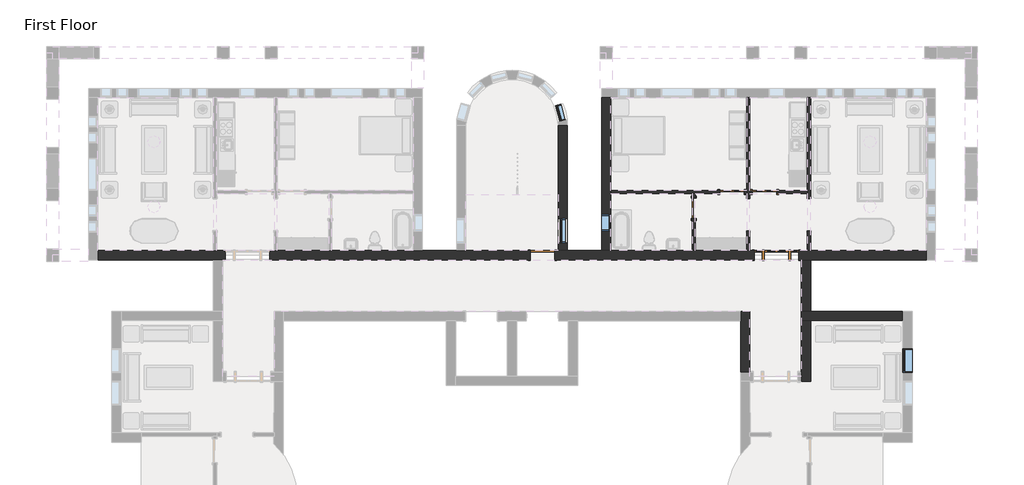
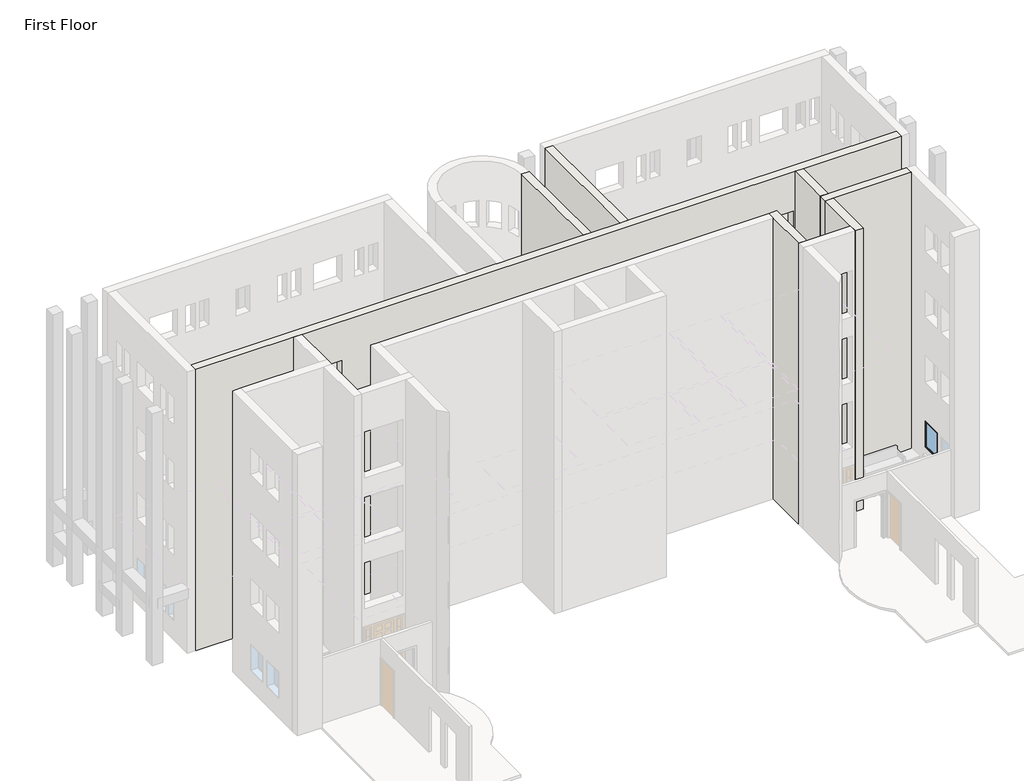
# One storey, part 14 of 21: 12 walls, 5 doors, 4 windows.
"""IFC4 building model written with IfcOpenShell, lengths in millimetres."""

import ifcopenshell
import ifcopenshell.guid

model = None  # the IFC model being written
_history = None  # IfcOwnerHistory: only IFC2X3 demands one
_inside = {}  # id of a spatial element -> (the spatial element, [elements in it])
_under = {}  # id of a project, library or spatial element -> (it, [spatial elements below it])
_declared = {}  # id of a project -> (the project, [libraries it declares])
_typed = {}  # id of a type object -> (the type object, [elements of that type])
_made_of = {}  # id of a material, layer set ... -> (it, [elements and type objects made of it])


def new_model(schema):
    """Start an empty IFC model of exactly this schema.

    Asked for "IFC4X3", IfcOpenShell would pick the latest addendum, in which some entities
    have other attributes; the version numbers below select the first issue.
    IFC2X3 requires an IfcOwnerHistory on every rooted entity: one is made here for all.
    """
    global model, _history
    if schema == "IFC4X3":
        model = ifcopenshell.file(schema_version=(4, 3, 0, 0))
    else:
        model = ifcopenshell.file(schema=schema)
    _inside.clear()
    _under.clear()
    _declared.clear()
    _typed.clear()
    _made_of.clear()
    _history = None
    if model.schema == "IFC2X3":
        org = make("IfcOrganization", Name="unknown")
        user = make(
            "IfcPersonAndOrganization",
            ThePerson=make("IfcPerson", FamilyName="unknown"),
            TheOrganization=org,
        )
        app = make(
            "IfcApplication",
            ApplicationDeveloper=org,
            Version="unknown",
            ApplicationFullName="unknown",
            ApplicationIdentifier="unknown",
        )
        _history = make(
            "IfcOwnerHistory",
            OwningUser=user,
            OwningApplication=app,
            ChangeAction="ADDED",
            CreationDate=0,
        )
    return model


def make(cls, **values):
    """One entity of the class cls with the attributes given. An attribute that is None is left unset."""
    return model.create_entity(
        cls, **{name: value for name, value in values.items() if value is not None}
    )


def rooted(cls, **values):
    """An entity with a GlobalId (a new one), such as an element, a storey or a relation."""
    return make(cls, GlobalId=ifcopenshell.guid.new(), OwnerHistory=_history, **values)


def si_unit(unit_type, name, prefix=None):
    """IfcSIUnit, for example si_unit("LENGTHUNIT", "METRE", prefix="MILLI")."""
    return make("IfcSIUnit", UnitType=unit_type, Prefix=prefix, Name=name)


def assignment(units):
    """IfcUnitAssignment: the units of a project."""
    return None if units is None else make("IfcUnitAssignment", Units=units)


def point(xyz):
    """IfcCartesianPoint."""
    return None if xyz is None else make("IfcCartesianPoint", Coordinates=xyz)


def direction(xyz):
    """IfcDirection."""
    return None if xyz is None else make("IfcDirection", DirectionRatios=xyz)


def frame(location, z_axis=None, x_axis=None):
    """IfcAxis2Placement3D, a coordinate frame: its origin and axes. An axis left out is left unset."""
    return make(
        "IfcAxis2Placement3D",
        Location=point(location),
        Axis=direction(z_axis),
        RefDirection=direction(x_axis),
    )


def frame_2d(location, x_axis=None):
    """IfcAxis2Placement2D, a coordinate frame in the plane: its origin and x axis."""
    return make(
        "IfcAxis2Placement2D", Location=point(location), RefDirection=direction(x_axis)
    )


def origin():
    """The frame at (0, 0, 0) with its axes left unset."""
    return frame((0.0, 0.0, 0.0))


def origin_with_axes():
    """The frame at (0, 0, 0) with the z axis (0, 0, 1) and the x axis (1, 0, 0) written out."""
    return frame((0.0, 0.0, 0.0), z_axis=(0.0, 0.0, 1.0), x_axis=(1.0, 0.0, 0.0))


def place(relative_to, where):
    """IfcLocalPlacement: puts the frame where relative to a parent placement (None: the world)."""
    return make(
        "IfcLocalPlacement", PlacementRelTo=relative_to, RelativePlacement=where
    )


def context(
    kind, dimensions, precision=None, world=None, true_north=None, identifier=None
):
    """IfcGeometricRepresentationContext, for example the 3D "Model" context."""
    return make(
        "IfcGeometricRepresentationContext",
        ContextIdentifier=identifier,
        ContextType=kind,
        CoordinateSpaceDimension=dimensions,
        Precision=precision,
        WorldCoordinateSystem=world,
        TrueNorth=true_north,
    )


def project(units=None, contexts=None):
    """IfcProject with its units and contexts."""
    return rooted(
        "IfcProject",
        Name="project",
        RepresentationContexts=contexts,
        UnitsInContext=assignment(units),
    )


def spatial(cls, under=None, at=None, **own):
    """A site, building, storey or space (cls), placed at a placement, below another one or the project."""
    s = rooted(cls, ObjectPlacement=at, **own)
    if under is not None:
        _under.setdefault(under.id(), (under, []))[1].append(s)
    return s


def polyline(points):
    """IfcPolyline through the points."""
    return make("IfcPolyline", Points=[point(p) for p in points])


def circle_curve(where, radius):
    """IfcCircle in the frame where."""
    return make("IfcCircle", Position=where, Radius=radius)


def trimmed(basis, trim1, trim2, sense, master):
    """IfcTrimmedCurve: the piece of a basis curve between two trims."""
    return make(
        "IfcTrimmedCurve",
        BasisCurve=basis,
        Trim1=trim1,
        Trim2=trim2,
        SenseAgreement=sense,
        MasterRepresentation=master,
    )


def segment(curve, same_sense, transition):
    """IfcCompositeCurveSegment."""
    return make(
        "IfcCompositeCurveSegment",
        Transition=transition,
        SameSense=same_sense,
        ParentCurve=curve,
    )


def composite_curve(segments, self_intersect=None):
    """IfcCompositeCurve: segments joined end to end."""
    return make("IfcCompositeCurve", Segments=segments, SelfIntersect=self_intersect)


def outline(outer, holes=None, kind="AREA"):
    """IfcArbitraryClosedProfileDef: a profile drawn as a closed curve; with holes, ...WithVoids."""
    if holes is None:
        return make("IfcArbitraryClosedProfileDef", ProfileType=kind, OuterCurve=outer)
    return make(
        "IfcArbitraryProfileDefWithVoids",
        ProfileType=kind,
        OuterCurve=outer,
        InnerCurves=holes,
    )


def extrude(swept, where, along, depth):
    """IfcExtrudedAreaSolid: the profile swept, set in the frame where, extruded along a direction by depth."""
    return make(
        "IfcExtrudedAreaSolid",
        SweptArea=swept,
        Position=where,
        ExtrudedDirection=direction(along),
        Depth=depth,
    )


def faces_of(points, faces, orient=None, outer=None):
    """IfcFace entities. A face is a list of loops; a loop is a list of indices into points, from 0.

    orient and outer hold one flag for each loop. By default every Orientation is true, the
    first loop of a face is its IfcFaceOuterBound and the others are IfcFaceBound.
    """
    made = []
    for i, loops in enumerate(faces):
        bounds = []
        for j, loop in enumerate(loops):
            is_outer = j == 0 if outer is None else outer[i][j]
            bounds.append(
                make(
                    "IfcFaceOuterBound" if is_outer else "IfcFaceBound",
                    Bound=make("IfcPolyLoop", Polygon=[points[k] for k in loop]),
                    Orientation=True if orient is None else orient[i][j],
                )
            )
        made.append(make("IfcFace", Bounds=bounds))
    return made


def faceted_brep(points, faces, orient=None, outer=None, voids=None):
    """IfcFacetedBrep: a solid bounded by flat faces; with voids (closed shells), ...WithVoids."""
    shared = [point(p) for p in points]
    hull = make("IfcClosedShell", CfsFaces=faces_of(shared, faces, orient, outer))
    if voids is None:
        return make("IfcFacetedBrep", Outer=hull)
    return make(
        "IfcFacetedBrepWithVoids",
        Outer=hull,
        Voids=[
            make(cls, CfsFaces=faces_of(shared, fs, o, b)) for cls, fs, o, b in voids
        ],
    )


def shape(context_of_items, identifier, shape_type, items):
    """IfcShapeRepresentation: the items that make up one representation, for example the "Body"."""
    return make(
        "IfcShapeRepresentation",
        ContextOfItems=context_of_items,
        RepresentationIdentifier=identifier,
        RepresentationType=shape_type,
        Items=items,
    )


def source(mapping_origin, context_of_items, identifier, shape_type, items):
    """IfcRepresentationMap: a shape defined once, which mapped items show again and again."""
    return make(
        "IfcRepresentationMap",
        MappingOrigin=mapping_origin,
        MappedRepresentation=shape(context_of_items, identifier, shape_type, items),
    )


def transform(
    local_origin,
    x_axis=None,
    y_axis=None,
    z_axis=None,
    scale=None,
    scale2=None,
    scale3=None,
    uniform=True,
):
    """IfcCartesianTransformationOperator3D, or its non-uniform kind. x_axis, y_axis, z_axis: its Axis1, 2, 3."""
    if uniform:
        return make(
            "IfcCartesianTransformationOperator3D",
            Axis1=direction(x_axis),
            Axis2=direction(y_axis),
            LocalOrigin=point(local_origin),
            Scale=scale,
            Axis3=direction(z_axis),
        )
    return make(
        "IfcCartesianTransformationOperator3DnonUniform",
        Axis1=direction(x_axis),
        Axis2=direction(y_axis),
        LocalOrigin=point(local_origin),
        Scale=scale,
        Axis3=direction(z_axis),
        Scale2=scale2,
        Scale3=scale3,
    )


def mapped(mapping_source, mapping_target):
    """IfcMappedItem: shows the shape of a source again, moved by a transform."""
    return make(
        "IfcMappedItem", MappingSource=mapping_source, MappingTarget=mapping_target
    )


def made_of(thing, what):
    """Note that an element or type object is made of a material, layer set ...; save() writes the relation."""
    if what is not None:
        _made_of.setdefault(what.id(), (what, []))[1].append(thing)
    return thing


def element(
    cls,
    number,
    at=None,
    inside=None,
    cuts=None,
    type_object=None,
    material=None,
    context=None,
    identifier="Body",
    shape_type=None,
    held_by="IfcProductDefinitionShape",
    body=None,
    shapes=None,
    **own,
):
    """One element of the class cls, such as IfcWall. Its Tag is "e" and its number.

    at: its placement. inside: the storey or other place that contains it. cuts: it is an
    opening in that element (IfcRelVoidsElement). A single representation is given by context,
    identifier, shape_type and body (its items); several are given by shapes. held_by: the class
    of the entity that holds the representations. save() writes the other relations.
    """
    e = rooted(cls, Tag="e%d" % number, ObjectPlacement=at, **own)
    if body is not None:
        shapes = [shape(context, identifier, shape_type, body)]
    if shapes is not None:
        e.Representation = make(held_by, Representations=shapes)
    if inside is not None:
        _inside.setdefault(inside.id(), (inside, []))[1].append(e)
    if cuts is not None:
        rooted(
            "IfcRelVoidsElement", RelatingBuildingElement=cuts, RelatedOpeningElement=e
        )
    if type_object is not None:
        _typed.setdefault(type_object.id(), (type_object, []))[1].append(e)
    return made_of(e, material)


def aggregate(whole, parts):
    """IfcRelAggregates: a whole, such as a stair, and the parts it consists of."""
    return rooted("IfcRelAggregates", RelatingObject=whole, RelatedObjects=parts)


def save(model, path):
    """Write the relations noted so far, then the file.

    IfcRelAggregates (storeys below a building ...), IfcRelContainedInSpatialStructure (elements
    in a storey), IfcRelDefinesByType, IfcRelAssociatesMaterial and IfcRelDeclares: one each for
    every whole, place, type object, material and project.
    """
    for whole, parts in _under.values():
        aggregate(whole, parts)
    for where, things in _inside.values():
        rooted(
            "IfcRelContainedInSpatialStructure",
            RelatedElements=things,
            RelatingStructure=where,
        )
    for kind, things in _typed.values():
        rooted("IfcRelDefinesByType", RelatedObjects=things, RelatingType=kind)
    for what, things in _made_of.values():
        rooted("IfcRelAssociatesMaterial", RelatedObjects=things, RelatingMaterial=what)
    for by, libraries in _declared.values():
        rooted("IfcRelDeclares", RelatingContext=by, RelatedDefinitions=libraries)
    model.write(path)


def door_829da954(model_context):
    return source(origin(), model_context, "Body", "SweptSolid", [
        extrude(outline(polyline([(0.0, -457.2), (0.0, 457.2), (2133.6, 457.2), (2133.6, -457.2), (0.0, -457.2)]), holes=[polyline([(254.0, -76.2), (254.0, -304.8), (1219.2, -304.8), (1219.2, -76.2), (254.0, -76.2)]), polyline([(254.0, 304.8), (254.0, 76.2), (1219.2, 76.2), (1219.2, 304.8), (254.0, 304.8)]), polyline([(1371.6, 76.2), (1574.8, 76.2), (1574.8, 304.8), (1371.6, 304.8), (1371.6, 76.2)]), polyline([(1371.6, -304.8), (1574.8, -304.8), (1574.8, -76.2), (1371.6, -76.2), (1371.6, -304.8)]), composite_curve([segment(polyline([(1727.2, 304.8), (1727.2, -304.8)]), True, "CONTINUOUS"), segment(trimmed(circle_curve(frame_2d((1727.2, 0.0)), 304.8), [point((1727.2, -304.8))], [point((1727.2, 304.8))], True, "CARTESIAN"), True, "CONTINUOUS")], self_intersect=False)]), frame((0.0, -63.5, 0.0), z_axis=(0.0, 1.0, 0.0), x_axis=(0.0, 0.0, 1.0)), (0.0, 0.0, 1.0), 50.8),
        extrude(outline(polyline([(0.0, 457.2), (0.0, 533.4), (2209.8, 533.4), (2209.8, -533.4), (0.0, -533.4), (0.0, -457.2), (2133.6, -457.2), (2133.6, 457.2), (0.0, 457.2)])), frame((0.0, 63.5, 0.0), z_axis=(0.0, 1.0, 0.0), x_axis=(0.0, 0.0, 1.0)), (0.0, 0.0, 1.0), 25.4),
        extrude(outline(polyline([(2209.8, -533.4), (0.0, -533.4), (0.0, -457.2), (2133.6, -457.2), (2133.6, 457.2), (0.0, 457.2), (0.0, 533.4), (2209.8, 533.4), (2209.8, -533.4)])), frame((0.0, -88.9, 0.0), z_axis=(0.0, 1.0, 0.0), x_axis=(0.0, 0.0, 1.0)), (0.0, 0.0, 1.0), 25.4),
        extrude(outline(composite_curve([segment(polyline([(1727.2, -304.8), (1727.2, 304.8)]), True, "CONTINUOUS"), segment(trimmed(circle_curve(frame_2d((1727.2, 0.0)), 304.8), [point((1727.2, 304.8))], [point((1727.2, -304.8))], False, "CARTESIAN"), True, "CONTINUOUS")], self_intersect=False)), frame((0.0, -46.5666667, 0.0), z_axis=(0.0, 1.0, 0.0), x_axis=(0.0, 0.0, 1.0)), (0.0, 0.0, 1.0), 16.9333333),
        extrude(outline(polyline([(-304.8, -46.5666667), (-304.8, -29.6333333), (-76.2, -29.6333333), (-76.2, -46.5666667), (-304.8, -46.5666667)])), frame((0.0, 0.0, 254.0), z_axis=(0.0, 0.0, 1.0), x_axis=(1.0, 0.0, 0.0)), (0.0, 0.0, 1.0), 965.2),
        extrude(outline(polyline([(76.2, -46.5666667), (76.2, -29.6333333), (304.8, -29.6333333), (304.8, -46.5666667), (76.2, -46.5666667)])), frame((0.0, 0.0, 254.0), z_axis=(0.0, 0.0, 1.0), x_axis=(1.0, 0.0, 0.0)), (0.0, 0.0, 1.0), 965.2),
        extrude(outline(polyline([(76.2, -46.5666667), (76.2, -29.6333333), (304.8, -29.6333333), (304.8, -46.5666667), (76.2, -46.5666667)])), frame((0.0, 0.0, 1371.6), z_axis=(0.0, 0.0, 1.0), x_axis=(1.0, 0.0, 0.0)), (0.0, 0.0, 1.0), 203.2),
        extrude(outline(polyline([(-304.8, -46.5666667), (-304.8, -29.6333333), (-76.2, -29.6333333), (-76.2, -46.5666667), (-304.8, -46.5666667)])), frame((0.0, 0.0, 1371.6), z_axis=(0.0, 0.0, 1.0), x_axis=(1.0, 0.0, 0.0)), (0.0, 0.0, 1.0), 203.2),
    ])


def door_2e3b4da2(model_context):
    return source(origin(), model_context, "Body", "SweptSolid", [
        extrude(outline(polyline([(0.0, -457.2), (0.0, 457.2), (2133.6, 457.2), (2133.6, -457.2), (0.0, -457.2)]), holes=[polyline([(254.0, -76.2), (254.0, -304.8), (1219.2, -304.8), (1219.2, -76.2), (254.0, -76.2)]), polyline([(254.0, 304.8), (254.0, 76.2), (1219.2, 76.2), (1219.2, 304.8), (254.0, 304.8)]), polyline([(1371.6, 76.2), (1574.8, 76.2), (1574.8, 304.8), (1371.6, 304.8), (1371.6, 76.2)]), polyline([(1371.6, -304.8), (1574.8, -304.8), (1574.8, -76.2), (1371.6, -76.2), (1371.6, -304.8)]), composite_curve([segment(polyline([(1727.2, 304.8), (1727.2, -304.8)]), True, "CONTINUOUS"), segment(trimmed(circle_curve(frame_2d((1727.2, 0.0)), 304.8), [point((1727.2, -304.8))], [point((1727.2, 304.8))], True, "CARTESIAN"), True, "CONTINUOUS")], self_intersect=False)]), frame((0.0, 12.7, 0.0), z_axis=(0.0, 1.0, 0.0), x_axis=(0.0, 0.0, 1.0)), (0.0, 0.0, 1.0), 50.8),
        extrude(outline(polyline([(0.0, 457.2), (0.0, 533.4), (2209.8, 533.4), (2209.8, -533.4), (0.0, -533.4), (0.0, -457.2), (2133.6, -457.2), (2133.6, 457.2), (0.0, 457.2)])), frame((0.0, -88.9, 0.0), z_axis=(0.0, 1.0, 0.0), x_axis=(0.0, 0.0, 1.0)), (0.0, 0.0, 1.0), 25.4),
        extrude(outline(polyline([(2209.8, -533.4), (0.0, -533.4), (0.0, -457.2), (2133.6, -457.2), (2133.6, 457.2), (0.0, 457.2), (0.0, 533.4), (2209.8, 533.4), (2209.8, -533.4)])), frame((0.0, 63.5, 0.0), z_axis=(0.0, 1.0, 0.0), x_axis=(0.0, 0.0, 1.0)), (0.0, 0.0, 1.0), 25.4),
        extrude(outline(composite_curve([segment(polyline([(1727.2, -304.8), (1727.2, 304.8)]), True, "CONTINUOUS"), segment(trimmed(circle_curve(frame_2d((1727.2, 0.0)), 304.8), [point((1727.2, 304.8))], [point((1727.2, -304.8))], False, "CARTESIAN"), True, "CONTINUOUS")], self_intersect=False)), frame((0.0, 29.6333333, 0.0), z_axis=(0.0, 1.0, 0.0), x_axis=(0.0, 0.0, 1.0)), (0.0, 0.0, 1.0), 16.9333333),
        extrude(outline(polyline([(-304.8, 46.5666667), (-76.2, 46.5666667), (-76.2, 29.6333333), (-304.8, 29.6333333), (-304.8, 46.5666667)])), frame((0.0, 0.0, 254.0), z_axis=(0.0, 0.0, 1.0), x_axis=(1.0, 0.0, 0.0)), (0.0, 0.0, 1.0), 965.2),
        extrude(outline(polyline([(76.2, 46.5666667), (304.8, 46.5666667), (304.8, 29.6333333), (76.2, 29.6333333), (76.2, 46.5666667)])), frame((0.0, 0.0, 254.0), z_axis=(0.0, 0.0, 1.0), x_axis=(1.0, 0.0, 0.0)), (0.0, 0.0, 1.0), 965.2),
        extrude(outline(polyline([(76.2, 46.5666667), (304.8, 46.5666667), (304.8, 29.6333333), (76.2, 29.6333333), (76.2, 46.5666667)])), frame((0.0, 0.0, 1371.6), z_axis=(0.0, 0.0, 1.0), x_axis=(1.0, 0.0, 0.0)), (0.0, 0.0, 1.0), 203.2),
        extrude(outline(polyline([(-304.8, 46.5666667), (-76.2, 46.5666667), (-76.2, 29.6333333), (-304.8, 29.6333333), (-304.8, 46.5666667)])), frame((0.0, 0.0, 1371.6), z_axis=(0.0, 0.0, 1.0), x_axis=(1.0, 0.0, 0.0)), (0.0, 0.0, 1.0), 203.2),
    ])


def door_4d6c7550(model_context):
    return source(origin(), model_context, "Body", "SweptSolid", [
        extrude(outline(polyline([(2209.8, -457.2), (0.0, -457.2), (0.0, -381.0), (2133.6, -381.0), (2133.6, 381.0), (0.0, 381.0), (0.0, 457.2), (2209.8, 457.2), (2209.8, -457.2)])), frame((0.0, 63.5, 0.0), z_axis=(0.0, 1.0, 0.0), x_axis=(0.0, 0.0, 1.0)), (0.0, 0.0, 1.0), 25.4),
        extrude(outline(polyline([(2209.8, 457.2), (2209.8, -457.2), (0.0, -457.2), (0.0, -381.0), (2133.6, -381.0), (2133.6, 381.0), (0.0, 381.0), (0.0, 457.2), (2209.8, 457.2)])), frame((0.0, -88.9, 0.0), z_axis=(0.0, 1.0, 0.0), x_axis=(0.0, 0.0, 1.0)), (0.0, 0.0, 1.0), 25.4),
        extrude(outline(polyline([(381.0, 12.7), (-381.0, 12.7), (-381.0, 63.5), (381.0, 63.5), (381.0, 12.7)])), origin_with_axes(), (0.0, 0.0, 1.0), 2133.6),
    ])


def door_632be17d(model_context):
    return source(origin(), model_context, "Body", "SweptSolid", [
        extrude(outline(polyline([(2209.8, -533.4), (0.0, -533.4), (0.0, -457.2), (2133.6, -457.2), (2133.6, 457.2), (0.0, 457.2), (0.0, 533.4), (2209.8, 533.4), (2209.8, -533.4)])), frame((0.0, 176.2125, 0.0), z_axis=(0.0, 1.0, 0.0), x_axis=(0.0, 0.0, 1.0)), (0.0, 0.0, 1.0), 25.4),
        extrude(outline(polyline([(2209.8, 533.4), (2209.8, -533.4), (0.0, -533.4), (0.0, -457.2), (2133.6, -457.2), (2133.6, 457.2), (0.0, 457.2), (0.0, 533.4), (2209.8, 533.4)])), frame((0.0, -201.6125, 0.0), z_axis=(0.0, 1.0, 0.0), x_axis=(0.0, 0.0, 1.0)), (0.0, 0.0, 1.0), 25.4),
        extrude(outline(polyline([(457.2, 125.4125), (-457.2, 125.4125), (-457.2, 176.2125), (457.2, 176.2125), (457.2, 125.4125)])), origin_with_axes(), (0.0, 0.0, 1.0), 2133.6),
    ])


def door_dba5aa2e(model_context):
    return source(origin(), model_context, "Body", "SweptSolid", [
        extrude(outline(polyline([(762.0, -134.9375), (762.0, -166.6875), (609.6, -166.6875), (609.6, -134.9375), (762.0, -134.9375)])), frame((0.0, 0.0, 600.075), z_axis=(0.0, 0.0, 1.0), x_axis=(1.0, 0.0, 0.0)), (0.0, 0.0, 1.0), 19.05),
        extrude(outline(polyline([(762.0, -134.9375), (762.0, -166.6875), (609.6, -166.6875), (609.6, -134.9375), (762.0, -134.9375)])), frame((0.0, 0.0, 955.675), z_axis=(0.0, 0.0, 1.0), x_axis=(1.0, 0.0, 0.0)), (0.0, 0.0, 1.0), 19.05),
        extrude(outline(polyline([(762.0, -134.9375), (762.0, -166.6875), (609.6, -166.6875), (609.6, -134.9375), (762.0, -134.9375)])), frame((0.0, 0.0, 1311.275), z_axis=(0.0, 0.0, 1.0), x_axis=(1.0, 0.0, 0.0)), (0.0, 0.0, 1.0), 19.05),
        extrude(outline(polyline([(762.0, -134.9375), (762.0, -166.6875), (609.6, -166.6875), (609.6, -134.9375), (762.0, -134.9375)])), frame((0.0, 0.0, 1666.875), z_axis=(0.0, 0.0, 1.0), x_axis=(1.0, 0.0, 0.0)), (0.0, 0.0, 1.0), 19.05),
        extrude(outline(polyline([(-609.6, -134.9375), (-609.6, -166.6875), (-762.0, -166.6875), (-762.0, -134.9375), (-609.6, -134.9375)])), frame((0.0, 0.0, 1666.875), z_axis=(0.0, 0.0, 1.0), x_axis=(1.0, 0.0, 0.0)), (0.0, 0.0, 1.0), 19.05),
        extrude(outline(polyline([(-609.6, -134.9375), (-609.6, -166.6875), (-762.0, -166.6875), (-762.0, -134.9375), (-609.6, -134.9375)])), frame((0.0, 0.0, 1311.275), z_axis=(0.0, 0.0, 1.0), x_axis=(1.0, 0.0, 0.0)), (0.0, 0.0, 1.0), 19.05),
        extrude(outline(polyline([(-609.6, -134.9375), (-609.6, -166.6875), (-762.0, -166.6875), (-762.0, -134.9375), (-609.6, -134.9375)])), frame((0.0, 0.0, 955.675), z_axis=(0.0, 0.0, 1.0), x_axis=(1.0, 0.0, 0.0)), (0.0, 0.0, 1.0), 19.05),
        extrude(outline(polyline([(-609.6, -134.9375), (-609.6, -166.6875), (-762.0, -166.6875), (-762.0, -134.9375), (-609.6, -134.9375)])), frame((0.0, 0.0, 600.075), z_axis=(0.0, 0.0, 1.0), x_axis=(1.0, 0.0, 0.0)), (0.0, 0.0, 1.0), 19.05),
        extrude(outline(polyline([(762.0, -141.2875), (762.0, -160.3375), (609.6, -160.3375), (609.6, -141.2875), (762.0, -141.2875)])), frame((0.0, 0.0, 254.0), z_axis=(0.0, 0.0, 1.0), x_axis=(1.0, 0.0, 0.0)), (0.0, 0.0, 1.0), 1778.0),
        extrude(outline(polyline([(-609.6, -141.2875), (-609.6, -160.3375), (-762.0, -160.3375), (-762.0, -141.2875), (-609.6, -141.2875)])), frame((0.0, 0.0, 254.0), z_axis=(0.0, 0.0, 1.0), x_axis=(1.0, 0.0, 0.0)), (0.0, 0.0, 1.0), 1778.0),
        extrude(outline(polyline([(-457.2, 176.2125), (-457.2, -176.2125), (-533.4, -176.2125), (-533.4, 176.2125), (-457.2, 176.2125)])), origin_with_axes(), (0.0, 0.0, 1.0), 2133.6),
        extrude(outline(polyline([(533.4, 176.2125), (533.4, -176.2125), (457.2, -176.2125), (457.2, 176.2125), (533.4, 176.2125)])), origin_with_axes(), (0.0, 0.0, 1.0), 2133.6),
        extrude(outline(polyline([(2133.6, -533.4), (2133.6, -838.2), (0.0, -838.2), (0.0, -533.4), (2133.6, -533.4)]), holes=[polyline([(2032.0, -609.6), (254.0, -609.6), (254.0, -762.0), (2032.0, -762.0), (2032.0, -609.6)])]), frame((0.0, -176.2125, 0.0), z_axis=(0.0, 1.0, 0.0), x_axis=(0.0, 0.0, 1.0)), (0.0, 0.0, 1.0), 50.8),
        extrude(outline(polyline([(0.0, 533.4), (0.0, 838.2), (2133.6, 838.2), (2133.6, 533.4), (0.0, 533.4)]), holes=[polyline([(2032.0, 762.0), (254.0, 762.0), (254.0, 609.6), (2032.0, 609.6), (2032.0, 762.0)])]), frame((0.0, -176.2125, 0.0), z_axis=(0.0, 1.0, 0.0), x_axis=(0.0, 0.0, 1.0)), (0.0, 0.0, 1.0), 50.8),
        extrude(outline(polyline([(0.0, -914.4), (0.0, -838.2), (2133.6, -838.2), (2133.6, -533.4), (0.0, -533.4), (0.0, -457.2), (2133.6, -457.2), (2133.6, 457.2), (0.0, 457.2), (0.0, 533.4), (2133.6, 533.4), (2133.6, 838.2), (0.0, 838.2), (0.0, 914.4), (2209.8, 914.4), (2209.8, -914.4), (0.0, -914.4)])), frame((0.0, 176.2125, 0.0), z_axis=(0.0, 1.0, 0.0), x_axis=(0.0, 0.0, 1.0)), (0.0, 0.0, 1.0), 25.4),
        extrude(outline(polyline([(0.0, 914.4), (2209.8, 914.4), (2209.8, -914.4), (0.0, -914.4), (0.0, -838.2), (2133.6, -838.2), (2133.6, -533.4), (0.0, -533.4), (0.0, -457.2), (2133.6, -457.2), (2133.6, 457.2), (0.0, 457.2), (0.0, 533.4), (2133.6, 533.4), (2133.6, 838.2), (0.0, 838.2), (0.0, 914.4)])), frame((0.0, -201.6125, 0.0), z_axis=(0.0, 1.0, 0.0), x_axis=(0.0, 0.0, 1.0)), (0.0, 0.0, 1.0), 25.4),
        extrude(outline(polyline([(-63.5, -138.1125), (-63.5, -163.5125), (-330.2, -163.5125), (-330.2, -138.1125), (-63.5, -138.1125)])), frame((0.0, 0.0, 1778.0), z_axis=(0.0, 0.0, 1.0), x_axis=(1.0, 0.0, 0.0)), (0.0, 0.0, 1.0), 254.0),
        extrude(outline(polyline([(330.2, -138.1125), (330.2, -163.5125), (63.5, -163.5125), (63.5, -138.1125), (330.2, -138.1125)])), frame((0.0, 0.0, 1778.0), z_axis=(0.0, 0.0, 1.0), x_axis=(1.0, 0.0, 0.0)), (0.0, 0.0, 1.0), 254.0),
        extrude(outline(polyline([(-63.5, -138.1125), (-63.5, -163.5125), (-330.2, -163.5125), (-330.2, -138.1125), (-63.5, -138.1125)])), frame((0.0, 0.0, 1041.4), z_axis=(0.0, 0.0, 1.0), x_axis=(1.0, 0.0, 0.0)), (0.0, 0.0, 1.0), 635.0),
        extrude(outline(polyline([(330.2, -138.1125), (330.2, -163.5125), (63.5, -163.5125), (63.5, -138.1125), (330.2, -138.1125)])), frame((0.0, 0.0, 1041.4), z_axis=(0.0, 0.0, 1.0), x_axis=(1.0, 0.0, 0.0)), (0.0, 0.0, 1.0), 635.0),
        extrude(outline(polyline([(-63.5, -138.1125), (-63.5, -163.5125), (-330.2, -163.5125), (-330.2, -138.1125), (-63.5, -138.1125)])), frame((0.0, 0.0, 254.0), z_axis=(0.0, 0.0, 1.0), x_axis=(1.0, 0.0, 0.0)), (0.0, 0.0, 1.0), 609.6),
        extrude(outline(polyline([(330.2, -138.1125), (330.2, -163.5125), (63.5, -163.5125), (63.5, -138.1125), (330.2, -138.1125)])), frame((0.0, 0.0, 254.0), z_axis=(0.0, 0.0, 1.0), x_axis=(1.0, 0.0, 0.0)), (0.0, 0.0, 1.0), 609.6),
        extrude(outline(polyline([(2133.6, 457.2), (2133.6, -457.2), (0.0, -457.2), (0.0, 457.2), (2133.6, 457.2)]), holes=[polyline([(2032.0, -63.5), (1778.0, -63.5), (1778.0, -330.2), (2032.0, -330.2), (2032.0, -63.5)]), polyline([(2032.0, 330.2), (1778.0, 330.2), (1778.0, 63.5), (2032.0, 63.5), (2032.0, 330.2)]), polyline([(1676.4, -63.5), (1041.4, -63.5), (1041.4, -330.2), (1676.4, -330.2), (1676.4, -63.5)]), polyline([(1676.4, 330.2), (1041.4, 330.2), (1041.4, 63.5), (1676.4, 63.5), (1676.4, 330.2)]), polyline([(863.6, -63.5), (254.0, -63.5), (254.0, -330.2), (863.6, -330.2), (863.6, -63.5)]), polyline([(863.6, 330.2), (254.0, 330.2), (254.0, 63.5), (863.6, 63.5), (863.6, 330.2)])]), frame((0.0, -176.2125, 0.0), z_axis=(0.0, 1.0, 0.0), x_axis=(0.0, 0.0, 1.0)), (0.0, 0.0, 1.0), 50.8),
    ])


def window_60baf983(model_context):
    return source(origin(), model_context, "Body", "SweptSolid", [
        extrude(outline(polyline([(203.2, 128.5875), (-279.4, 128.5875), (-279.4, 141.2875), (203.2, 141.2875), (203.2, 128.5875)])), frame((0.0, 0.0, 977.9), z_axis=(0.0, 0.0, 1.0), x_axis=(1.0, 0.0, 0.0)), (0.0, 0.0, 1.0), 1092.2),
        extrude(outline(polyline([(2114.55, -323.85), (933.45, -323.85), (933.45, 247.65), (2114.55, 247.65), (2114.55, -323.85)]), holes=[polyline([(2070.1, -279.4), (2070.1, 203.2), (977.9, 203.2), (977.9, -279.4), (2070.1, -279.4)])]), frame((0.0, 112.7125, 0.0), z_axis=(0.0, 1.0, 0.0), x_axis=(0.0, 0.0, 1.0)), (0.0, 0.0, 1.0), 44.45),
        extrude(outline(polyline([(2133.6, -342.9), (914.4, -342.9), (914.4, 266.7), (2133.6, 266.7), (2133.6, -342.9)]), holes=[polyline([(2101.85, -311.15), (2101.85, 234.95), (946.15, 234.95), (946.15, -311.15), (2101.85, -311.15)])]), frame((0.0, -176.2125, 0.0), z_axis=(0.0, 1.0, 0.0), x_axis=(0.0, 0.0, 1.0)), (0.0, 0.0, 1.0), 288.925),
        extrude(outline(polyline([(2133.6, 266.7), (2133.6, -342.9), (914.4, -342.9), (914.4, 266.7), (2133.6, 266.7)]), holes=[polyline([(2114.55, 247.65), (933.45, 247.65), (933.45, -323.85), (2114.55, -323.85), (2114.55, 247.65)])]), frame((0.0, 112.7125, 0.0), z_axis=(0.0, 1.0, 0.0), x_axis=(0.0, 0.0, 1.0)), (0.0, 0.0, 1.0), 63.5),
    ])


def window_80bd9af0(model_context):
    return source(origin(), model_context, "Body", "SweptSolid", [
        extrude(outline(polyline([(203.2, 53.975), (-279.4, 53.975), (-279.4, 66.675), (203.2, 66.675), (203.2, 53.975)])), frame((0.0, 0.0, 977.9), z_axis=(0.0, 0.0, 1.0), x_axis=(1.0, 0.0, 0.0)), (0.0, 0.0, 1.0), 1092.2),
        extrude(outline(polyline([(2114.55, -323.85), (933.45, -323.85), (933.45, 247.65), (2114.55, 247.65), (2114.55, -323.85)]), holes=[polyline([(2070.1, -279.4), (2070.1, 203.2), (977.9, 203.2), (977.9, -279.4), (2070.1, -279.4)])]), frame((0.0, 38.1, 0.0), z_axis=(0.0, 1.0, 0.0), x_axis=(0.0, 0.0, 1.0)), (0.0, 0.0, 1.0), 44.45),
        extrude(outline(polyline([(2133.6, -342.9), (914.4, -342.9), (914.4, 266.7), (2133.6, 266.7), (2133.6, -342.9)]), holes=[polyline([(2101.85, -311.15), (2101.85, 234.95), (946.15, 234.95), (946.15, -311.15), (2101.85, -311.15)])]), frame((0.0, -101.6, 0.0), z_axis=(0.0, 1.0, 0.0), x_axis=(0.0, 0.0, 1.0)), (0.0, 0.0, 1.0), 139.7),
        extrude(outline(polyline([(2133.6, 266.7), (2133.6, -342.9), (914.4, -342.9), (914.4, 266.7), (2133.6, 266.7)]), holes=[polyline([(2114.55, 247.65), (933.45, 247.65), (933.45, -323.85), (2114.55, -323.85), (2114.55, 247.65)])]), frame((0.0, 38.1, 0.0), z_axis=(0.0, 1.0, 0.0), x_axis=(0.0, 0.0, 1.0)), (0.0, 0.0, 1.0), 63.5),
    ])


def window_0e2fc6ce(model_context):
    return source(origin(), model_context, "Body", "SweptSolid", [
        extrude(outline(polyline([(355.6, -128.5875), (355.6, -141.2875), (-431.8, -141.2875), (-431.8, -128.5875), (355.6, -128.5875)])), frame((0.0, 0.0, 977.9), z_axis=(0.0, 0.0, 1.0), x_axis=(1.0, 0.0, 0.0)), (0.0, 0.0, 1.0), 1092.2),
        extrude(outline(polyline([(2114.55, -476.25), (933.45, -476.25), (933.45, 400.05), (2114.55, 400.05), (2114.55, -476.25)]), holes=[polyline([(2070.1, -431.8), (2070.1, 355.6), (977.9, 355.6), (977.9, -431.8), (2070.1, -431.8)])]), frame((0.0, -157.1625, 0.0), z_axis=(0.0, 1.0, 0.0), x_axis=(0.0, 0.0, 1.0)), (0.0, 0.0, 1.0), 44.45),
        extrude(outline(polyline([(2133.6, -495.3), (914.4, -495.3), (914.4, 419.1), (2133.6, 419.1), (2133.6, -495.3)]), holes=[polyline([(2101.85, -463.55), (2101.85, 387.35), (946.15, 387.35), (946.15, -463.55), (2101.85, -463.55)])]), frame((0.0, -112.7125, 0.0), z_axis=(0.0, 1.0, 0.0), x_axis=(0.0, 0.0, 1.0)), (0.0, 0.0, 1.0), 288.925),
        extrude(outline(polyline([(2133.6, 419.1), (2133.6, -495.3), (914.4, -495.3), (914.4, 419.1), (2133.6, 419.1)]), holes=[polyline([(2114.55, 400.05), (933.45, 400.05), (933.45, -476.25), (2114.55, -476.25), (2114.55, 400.05)])]), frame((0.0, -176.2125, 0.0), z_axis=(0.0, 1.0, 0.0), x_axis=(0.0, 0.0, 1.0)), (0.0, 0.0, 1.0), 63.5),
    ])


def window_e2841890(model_context):
    return source(origin(), model_context, "Body", "SweptSolid", [
        extrude(outline(polyline([(355.6, 53.975), (-431.8, 53.975), (-431.8, 66.675), (355.6, 66.675), (355.6, 53.975)])), frame((0.0, 0.0, 977.9), z_axis=(0.0, 0.0, 1.0), x_axis=(1.0, 0.0, 0.0)), (0.0, 0.0, 1.0), 1092.2),
        extrude(outline(polyline([(2114.55, -476.25), (933.45, -476.25), (933.45, 400.05), (2114.55, 400.05), (2114.55, -476.25)]), holes=[polyline([(2070.1, -431.8), (2070.1, 355.6), (977.9, 355.6), (977.9, -431.8), (2070.1, -431.8)])]), frame((0.0, 38.1, 0.0), z_axis=(0.0, 1.0, 0.0), x_axis=(0.0, 0.0, 1.0)), (0.0, 0.0, 1.0), 44.45),
        extrude(outline(polyline([(2133.6, -495.3), (914.4, -495.3), (914.4, 419.1), (2133.6, 419.1), (2133.6, -495.3)]), holes=[polyline([(2101.85, -463.55), (2101.85, 387.35), (946.15, 387.35), (946.15, -463.55), (2101.85, -463.55)])]), frame((0.0, -101.6, 0.0), z_axis=(0.0, 1.0, 0.0), x_axis=(0.0, 0.0, 1.0)), (0.0, 0.0, 1.0), 139.7),
        extrude(outline(polyline([(2133.6, 419.1), (2133.6, -495.3), (914.4, -495.3), (914.4, 419.1), (2133.6, 419.1)]), holes=[polyline([(2114.55, 400.05), (933.45, 400.05), (933.45, -476.25), (2114.55, -476.25), (2114.55, 400.05)])]), frame((0.0, 38.1, 0.0), z_axis=(0.0, 1.0, 0.0), x_axis=(0.0, 0.0, 1.0)), (0.0, 0.0, 1.0), 63.5),
    ])


model = new_model("IFC4")

# Units and contexts
model_context = context("Model", 3, world=origin())
ifc_project = project(units=[si_unit("LENGTHUNIT", "METRE", prefix="MILLI")], contexts=[model_context])

# Site, building, storey
site = spatial("IfcSite", under=ifc_project)
building = spatial("IfcBuilding", under=site)
storey = spatial("IfcBuildingStorey", under=building, Name="First Floor", Elevation=0.0)

# Doors
placement = place(None, origin())
door_shape = door_829da954(model_context)
element("IfcDoor", 1, ObjectType="Single-Decorative 2 : 36\" x 84\"", at=placement, inside=storey, context=model_context, shape_type="MappedRepresentation", body=[
    mapped(door_shape, transform((-5449.8589563, 6723.5441867, 0.0), x_axis=(-1.0, 0.0, 0.0), y_axis=(0.0, -1.0, 0.0), z_axis=(0.0, 0.0, 1.0))),
])
door_2_shape = door_2e3b4da2(model_context)
element("IfcDoor", 2, ObjectType="Single-Decorative 2 : 36\" x 84\"", at=placement, inside=storey, context=model_context, shape_type="MappedRepresentation", body=[
    mapped(door_2_shape, transform((-6669.0589563, 6723.5441867, 0.0), x_axis=(1.0, 0.0, 0.0), y_axis=(0.0, 1.0, 0.0), z_axis=(0.0, 0.0, 1.0))),
])
door_3_shape = door_4d6c7550(model_context)
element("IfcDoor", 3, ObjectType="Single-Flush : 30\" x 84\"", at=placement, inside=storey, context=model_context, shape_type="MappedRepresentation", body=[
    mapped(door_3_shape, transform((-8105.7464563, 6113.9441867, 0.0), x_axis=(0.0, 1.0, 0.0), y_axis=(-1.0, 0.0, 0.0), z_axis=(0.0, 0.0, 1.0))),
])
door_4_shape = door_632be17d(model_context)
element("IfcDoor", 4, ObjectType="Single-Flush : 36\" x 84\"", at=placement, inside=storey, context=model_context, shape_type="MappedRepresentation", body=[
    mapped(door_4_shape, transform((-13792.1714563, 4350.2316867, 0.0), x_axis=(1.0, 0.0, 0.0), y_axis=(0.0, 1.0, 0.0), z_axis=(0.0, 0.0, 1.0))),
])
door_5_shape = door_dba5aa2e(model_context)
element("IfcDoor", 5, ObjectType="Single-Raised Panel with Sidelights : 36\" x 84\"", at=placement, inside=storey, context=model_context, shape_type="MappedRepresentation", body=[
    mapped(door_5_shape, transform((-4992.6589563, 4350.2316867, 0.0), x_axis=(-1.0, 0.0, 0.0), y_axis=(0.0, -1.0, 0.0), z_axis=(0.0, 0.0, 1.0))),
])

# Walls
element("IfcWall", 6, ObjectType="Exterior - Brick on Mtl. Stud", at=placement, inside=storey, context=model_context, shape_type="Brep", body=[
    faceted_brep([(-5830.8589563, 4174.0191867, 0.0), (-13334.9714563, 4174.0191867, 0.0), (-13334.9714563, 4526.4441867, 0.0), (-13206.3839563, 4526.4441867, 0.0), (-12853.9589563, 4526.4441867, 0.0), (-11569.6714563, 4526.4441867, 0.0), (-11217.2464563, 4526.4441867, 0.0), (-8169.2464563, 4526.4441867, 0.0), (-8042.2464563, 4526.4441867, 0.0), (-6122.9589563, 4526.4441867, 0.0), (-5995.9589563, 4526.4441867, 0.0), (-5830.8589563, 4526.4441867, 0.0), (-4154.4589563, 4526.4441867, 0.0), (-3836.9589563, 4526.4441867, 0.0), (-3709.9589563, 4526.4441867, 0.0), (622.3285437, 4526.4441867, 0.0), (622.3285437, 4174.0191867, 0.0), (-3709.9589563, 4174.0191867, 0.0), (-4062.3839563, 4174.0191867, 0.0), (-4154.4589563, 4174.0191867, 0.0), (-14249.3714563, 4174.0191867, 0.0), (-24039.4839563, 4174.0191867, 0.0), (-24039.4839563, 4526.4441867, 0.0), (-23874.3839563, 4526.4441867, 0.0), (-23747.3839563, 4526.4441867, 0.0), (-21828.0964563, 4526.4441867, 0.0), (-21701.0964563, 4526.4441867, 0.0), (-18653.0964563, 4526.4441867, 0.0), (-18300.6714563, 4526.4441867, 0.0), (-17016.3839563, 4526.4441867, 0.0), (-16663.9589563, 4526.4441867, 0.0), (-14249.3714563, 4526.4441867, 0.0), (-25715.8839563, 4174.0191867, 0.0), (-25807.9589563, 4174.0191867, 0.0), (-26160.3839563, 4174.0191867, 0.0), (-30492.6714563, 4174.0191867, 0.0), (-30492.6714563, 4526.4441867, 0.0), (-26160.3839563, 4526.4441867, 0.0), (-26033.3839563, 4526.4441867, 0.0), (-25715.8839563, 4526.4441867, 0.0), (622.3285437, 4526.4441867, 13106.4), (-11217.2464563, 4526.4441867, 13106.4), (-11569.6714563, 4526.4441867, 13106.4), (-12853.9589563, 4526.4441867, 13106.4), (-13206.3839563, 4526.4441867, 13106.4), (-16663.9589563, 4526.4441867, 13106.4), (-17016.3839563, 4526.4441867, 13106.4), (-18300.6714563, 4526.4441867, 13106.4), (-18653.0964563, 4526.4441867, 13106.4), (-30492.6714563, 4526.4441867, 13106.4), (-30492.6714563, 4174.0191867, 13106.4), (-26160.3839563, 4174.0191867, 13106.4), (-25807.9589563, 4174.0191867, 13106.4), (-4062.3839563, 4174.0191867, 13106.4), (-3709.9589563, 4174.0191867, 13106.4), (622.3285437, 4174.0191867, 13106.4), (-24039.4839563, 4526.4441867, 2133.6), (-25715.8839563, 4526.4441867, 2133.6), (-4154.4589563, 4526.4441867, 2133.6), (-5830.8589563, 4526.4441867, 2133.6), (-13334.9714563, 4526.4441867, 2133.6), (-14249.3714563, 4526.4441867, 2133.6), (-25715.8839563, 4526.4441867, 6096.0), (-24039.4839563, 4526.4441867, 6096.0), (-24039.4839563, 4526.4441867, 8229.6), (-25715.8839563, 4526.4441867, 8229.6), (-25715.8839563, 4526.4441867, 3048.0), (-24039.4839563, 4526.4441867, 3048.0), (-24039.4839563, 4526.4441867, 5181.6), (-25715.8839563, 4526.4441867, 5181.6), (-25715.8839563, 4526.4441867, 9144.0), (-24039.4839563, 4526.4441867, 9144.0), (-24039.4839563, 4526.4441867, 11277.6), (-25715.8839563, 4526.4441867, 11277.6), (-14249.3714563, 4526.4441867, 6096.0), (-13334.9714563, 4526.4441867, 6096.0), (-13334.9714563, 4526.4441867, 8229.6), (-14249.3714563, 4526.4441867, 8229.6), (-14249.3714563, 4526.4441867, 3048.0), (-13334.9714563, 4526.4441867, 3048.0), (-13334.9714563, 4526.4441867, 5181.6), (-14249.3714563, 4526.4441867, 5181.6), (-14249.3714563, 4526.4441867, 9144.0), (-13334.9714563, 4526.4441867, 9144.0), (-13334.9714563, 4526.4441867, 11277.6), (-14249.3714563, 4526.4441867, 11277.6), (-4154.4589563, 4526.4441867, 6096.0), (-4154.4589563, 4526.4441867, 8229.6), (-5830.8589563, 4526.4441867, 8229.6), (-5830.8589563, 4526.4441867, 6096.0), (-4154.4589563, 4526.4441867, 3048.0), (-4154.4589563, 4526.4441867, 5181.6), (-5830.8589563, 4526.4441867, 5181.6), (-5830.8589563, 4526.4441867, 3048.0), (-4154.4589563, 4526.4441867, 9144.0), (-4154.4589563, 4526.4441867, 11277.6), (-5830.8589563, 4526.4441867, 11277.6), (-5830.8589563, 4526.4441867, 9144.0), (-24039.4839563, 4174.0191867, 2133.6), (-14249.3714563, 4174.0191867, 2133.6), (-13334.9714563, 4174.0191867, 2133.6), (-5830.8589563, 4174.0191867, 2133.6), (-4154.4589563, 4174.0191867, 2133.6), (-25715.8839563, 4174.0191867, 2133.6), (-25715.8839563, 4174.0191867, 6096.0), (-25715.8839563, 4174.0191867, 8229.6), (-24039.4839563, 4174.0191867, 8229.6), (-24039.4839563, 4174.0191867, 6096.0), (-25715.8839563, 4174.0191867, 3048.0), (-25715.8839563, 4174.0191867, 5181.6), (-24039.4839563, 4174.0191867, 5181.6), (-24039.4839563, 4174.0191867, 3048.0), (-25715.8839563, 4174.0191867, 9144.0), (-25715.8839563, 4174.0191867, 11277.6), (-24039.4839563, 4174.0191867, 11277.6), (-24039.4839563, 4174.0191867, 9144.0), (-14249.3714563, 4174.0191867, 6096.0), (-14249.3714563, 4174.0191867, 8229.6), (-13334.9714563, 4174.0191867, 8229.6), (-13334.9714563, 4174.0191867, 6096.0), (-14249.3714563, 4174.0191867, 3048.0), (-14249.3714563, 4174.0191867, 5181.6), (-13334.9714563, 4174.0191867, 5181.6), (-13334.9714563, 4174.0191867, 3048.0), (-14249.3714563, 4174.0191867, 9144.0), (-14249.3714563, 4174.0191867, 11277.6), (-13334.9714563, 4174.0191867, 11277.6), (-13334.9714563, 4174.0191867, 9144.0), (-4154.4589563, 4174.0191867, 6096.0), (-5830.8589563, 4174.0191867, 6096.0), (-5830.8589563, 4174.0191867, 8229.6), (-4154.4589563, 4174.0191867, 8229.6), (-4154.4589563, 4174.0191867, 3048.0), (-5830.8589563, 4174.0191867, 3048.0), (-5830.8589563, 4174.0191867, 5181.6), (-4154.4589563, 4174.0191867, 5181.6), (-4154.4589563, 4174.0191867, 9144.0), (-5830.8589563, 4174.0191867, 9144.0), (-5830.8589563, 4174.0191867, 11277.6), (-4154.4589563, 4174.0191867, 11277.6)], [[[0, 1, 2, 3, 4, 5, 6, 7, 8, 9, 10, 11]], [[12, 13, 14, 15, 16, 17, 18, 19]], [[20, 21, 22, 23, 24, 25, 26, 27, 28, 29, 30, 31]], [[32, 33, 34, 35, 36, 37, 38, 39]], [[40, 41, 42, 43, 44, 45, 46, 47, 48, 49, 50, 51, 52, 53, 54, 55]], [[31, 30, 29, 28, 27, 26, 25, 24, 23, 22, 56, 57, 39, 38, 37, 36, 49, 48, 47, 46, 45, 44, 43, 42, 41, 40, 15, 14, 13, 12, 58, 59, 11, 10, 9, 8, 7, 6, 5, 4, 3, 2, 60, 61], [62, 63, 64, 65], [66, 67, 68, 69], [70, 71, 72, 73], [74, 75, 76, 77], [78, 79, 80, 81], [82, 83, 84, 85], [86, 87, 88, 89], [90, 91, 92, 93], [94, 95, 96, 97]], [[98, 21, 20, 99, 100, 1, 0, 101, 102, 19, 18, 17, 16, 55, 54, 53, 52, 51, 50, 35, 34, 33, 32, 103], [104, 105, 106, 107], [108, 109, 110, 111], [112, 113, 114, 115], [116, 117, 118, 119], [120, 121, 122, 123], [124, 125, 126, 127], [128, 129, 130, 131], [132, 133, 134, 135], [136, 137, 138, 139]], [[15, 40, 55, 16]], [[49, 36, 35, 50]], [[101, 0, 11, 59]], [[102, 101, 59, 58]], [[19, 102, 58, 12]], [[60, 2, 1, 100]], [[61, 60, 100, 99]], [[31, 61, 99, 20]], [[56, 22, 21, 98]], [[57, 56, 98, 103]], [[39, 57, 103, 32]], [[63, 62, 104, 107]], [[64, 63, 107, 106]], [[65, 64, 106, 105]], [[62, 65, 105, 104]], [[67, 66, 108, 111]], [[68, 67, 111, 110]], [[69, 68, 110, 109]], [[66, 69, 109, 108]], [[71, 70, 112, 115]], [[72, 71, 115, 114]], [[73, 72, 114, 113]], [[70, 73, 113, 112]], [[75, 74, 116, 119]], [[76, 75, 119, 118]], [[77, 76, 118, 117]], [[74, 77, 117, 116]], [[79, 78, 120, 123]], [[80, 79, 123, 122]], [[81, 80, 122, 121]], [[78, 81, 121, 120]], [[83, 82, 124, 127]], [[84, 83, 127, 126]], [[85, 84, 126, 125]], [[82, 85, 125, 124]], [[129, 128, 86, 89]], [[130, 129, 89, 88]], [[131, 130, 88, 87]], [[128, 131, 87, 86]], [[133, 132, 90, 93]], [[134, 133, 93, 92]], [[135, 134, 92, 91]], [[132, 135, 91, 90]], [[137, 136, 94, 97]], [[138, 137, 97, 96]], [[139, 138, 96, 95]], [[136, 139, 95, 94]]]),
])
element("IfcWall", 7, ObjectType="Exterior - Brick on Mtl. Stud", at=placement, inside=storey, context=model_context, shape_type="Brep", body=[
    faceted_brep([(-11217.2464563, 4526.4441867, 13106.4), (-11217.2464563, 10270.0191867, 13106.4), (-11569.6714563, 10270.0191867, 13106.4), (-11569.6714563, 4526.4441867, 13106.4), (-11217.2464563, 4526.4441867, 0.0), (-11217.2464563, 6660.0441867, 0.0), (-11217.2464563, 6787.0441867, 0.0), (-11217.2464563, 10270.0191867, 0.0), (-11217.2464563, 5264.6316867, 8229.6), (-11217.2464563, 5874.2316867, 8229.6), (-11217.2464563, 5874.2316867, 7010.4), (-11217.2464563, 5264.6316867, 7010.4), (-11217.2464563, 5264.6316867, 5181.6), (-11217.2464563, 5874.2316867, 5181.6), (-11217.2464563, 5874.2316867, 3962.4), (-11217.2464563, 5264.6316867, 3962.4), (-11217.2464563, 5264.6316867, 11277.6), (-11217.2464563, 5874.2316867, 11277.6), (-11217.2464563, 5874.2316867, 10058.4), (-11217.2464563, 5264.6316867, 10058.4), (-11217.2464563, 5264.6316867, 2133.6), (-11217.2464563, 5874.2316867, 2133.6), (-11217.2464563, 5874.2316867, 914.4), (-11217.2464563, 5264.6316867, 914.4), (-11569.6714563, 4526.4441867, 0.0), (-11569.6714563, 10270.0191867, 0.0), (-11569.6714563, 5264.6316867, 8229.6), (-11569.6714563, 5264.6316867, 7010.4), (-11569.6714563, 5874.2316867, 7010.4), (-11569.6714563, 5874.2316867, 8229.6), (-11569.6714563, 5264.6316867, 5181.6), (-11569.6714563, 5264.6316867, 3962.4), (-11569.6714563, 5874.2316867, 3962.4), (-11569.6714563, 5874.2316867, 5181.6), (-11569.6714563, 5264.6316867, 11277.6), (-11569.6714563, 5264.6316867, 10058.4), (-11569.6714563, 5874.2316867, 10058.4), (-11569.6714563, 5874.2316867, 11277.6), (-11569.6714563, 5264.6316867, 2133.6), (-11569.6714563, 5264.6316867, 914.4), (-11569.6714563, 5874.2316867, 914.4), (-11569.6714563, 5874.2316867, 2133.6), (-11382.3464563, 4526.4441867, 0.0), (-11382.3464563, 10270.0191867, 0.0)], [[[0, 1, 2, 3]], [[4, 5, 6, 7, 1, 0], [8, 9, 10, 11], [12, 13, 14, 15], [16, 17, 18, 19], [20, 21, 22, 23]], [[24, 3, 2, 25], [26, 27, 28, 29], [30, 31, 32, 33], [34, 35, 36, 37], [38, 39, 40, 41]], [[4, 0, 3, 24, 42]], [[1, 7, 43, 25, 2]], [[42, 24, 25, 43]], [[7, 6, 5, 4, 42, 43]], [[27, 26, 8, 11]], [[28, 27, 11, 10]], [[29, 28, 10, 9]], [[26, 29, 9, 8]], [[31, 30, 12, 15]], [[32, 31, 15, 14]], [[33, 32, 14, 13]], [[30, 33, 13, 12]], [[35, 34, 16, 19]], [[36, 35, 19, 18]], [[37, 36, 18, 17]], [[34, 37, 17, 16]], [[39, 38, 20, 23]], [[40, 39, 23, 22]], [[41, 40, 22, 21]], [[38, 41, 21, 20]]]),
])
element("IfcWall", 8, ObjectType="Exterior - Brick on Mtl. Stud", at=placement, inside=storey, context=model_context, shape_type="SweptSolid", body=[
    extrude(outline(polyline([(4526.4441867, 0.0), (4526.4441867, 13106.4), (9227.0316867, 13106.4), (9227.0316867, 0.0), (4526.4441867, 0.0)]), holes=[polyline([(5721.8316867, 8229.6), (4807.4316867, 8229.6), (4807.4316867, 7010.4), (5721.8316867, 7010.4), (5721.8316867, 8229.6)]), polyline([(5721.8316867, 5181.6), (4807.4316867, 5181.6), (4807.4316867, 3962.4), (5721.8316867, 3962.4), (5721.8316867, 5181.6)]), polyline([(5721.8316867, 11277.6), (4807.4316867, 11277.6), (4807.4316867, 10058.4), (5721.8316867, 10058.4), (5721.8316867, 11277.6)]), polyline([(5721.8316867, 2133.6), (4807.4316867, 2133.6), (4807.4316867, 914.4), (5721.8316867, 914.4), (5721.8316867, 2133.6)])]), frame((-13206.3839563, 0.0, 0.0), z_axis=(1.0, 0.0, 0.0), x_axis=(0.0, 1.0, 0.0)), (0.0, 0.0, 1.0), 352.425),
])
element("IfcWall", 9, ObjectType="Exterior - Brick on Mtl. Stud", at=placement, inside=storey, context=model_context, shape_type="Brep", body=[
    faceted_brep([(-6348.3839563, 2240.4441867, 0.0), (-6348.3839563, 1888.0191867, 0.0), (-6348.3839563, -48.3489373, 0.0), (-6348.3839563, -48.3489373, 13106.4), (-6348.3839563, 1888.0191867, 13106.4), (-6348.3839563, 2240.4441867, 13106.4), (-5995.9589563, 2240.4441867, 0.0), (-5995.9589563, 2240.4441867, 13106.4), (-5995.9589563, -48.0814907, 13106.4), (-5995.9589563, -48.0814907, 0.0)], [[[0, 1, 2, 3, 4, 5]], [[6, 7, 8, 9]], [[2, 1, 0, 6, 9]], [[5, 4, 3, 8, 7]], [[0, 5, 7, 6]], [[3, 2, 9, 8]]]),
])
element("IfcWall", 10, ObjectType="Exterior - Brick on Mtl. Stud", at=placement, inside=storey, context=model_context, shape_type="SweptSolid", body=[
    extrude(outline(polyline([(-3709.9589563, 4174.0191867), (-3709.9589563, 2239.653956), (-4062.3839563, 2239.3865094), (-4062.3839563, 4174.0191867), (-3709.9589563, 4174.0191867)])), origin_with_axes(), (0.0, 0.0, 1.0), 13106.4),
])
element("IfcWall", 11, ObjectType="Exterior - Brick on Mtl. Stud", at=placement, inside=storey, context=model_context, shape_type="Brep", body=[
    faceted_brep([(-254.1204996, 2242.2765057, 0.0), (-3709.9589563, 2239.653956, 0.0), (-4062.3839563, 2239.3865094, 0.0), (-4064.1194025, 2239.3851925, 0.0), (-4064.1194025, 2239.3851925, 13106.4), (-4062.3839563, 2239.3865094, 13106.4), (-3709.9589563, 2239.653956, 13106.4), (-254.1204996, 2242.2765057, 13106.4), (-253.8530531, 1889.8516072, 0.0), (-253.8530531, 1889.8516072, 13106.4), (-3711.4270575, 1887.2277404, 13106.4), (-4063.851956, 1886.9602939, 13106.4), (-4063.851956, 1886.9602939, 0.0), (-3711.4270575, 1887.2277404, 0.0)], [[[0, 1, 2, 3, 4, 5, 6, 7]], [[8, 9, 10, 11, 12, 13]], [[3, 2, 1, 0, 8, 13, 12]], [[7, 6, 5, 4, 11, 10, 9]], [[4, 3, 12, 11]], [[0, 7, 9, 8]]]),
])
element("IfcWall", 12, ObjectType="Exterior - Brick on Mtl. Stud", at=placement, inside=storey, context=model_context, shape_type="Brep", body=[
    faceted_brep([(-4063.851956, 1886.9602939, 0.0), (-4062.3846146, -46.6141493, 0.0), (-4062.1171681, -399.0390478, 0.0), (-4062.1171681, -399.0390478, 13106.4), (-4062.3846146, -46.6141493, 13106.4), (-4063.851956, 1886.9602939, 13106.4), (-3711.4270575, 1887.2277404, 0.0), (-3711.4270575, 1887.2277404, 13106.4), (-3709.6922696, -398.7716013, 13106.4), (-3709.6922696, -398.7716013, 0.0)], [[[0, 1, 2, 3, 4, 5]], [[6, 7, 8, 9]], [[2, 1, 0, 6, 9]], [[5, 4, 3, 8, 7]], [[3, 2, 9, 8]], [[0, 5, 7, 6]]]),
])
element("IfcWall", 13, ObjectType="Interior - 5\" Partition (2-hr)", at=placement, inside=storey, context=model_context, shape_type="Brep", body=[
    faceted_brep([(-3709.9589563, 10270.0191867, 0.0), (-3709.9589563, 6483.8316867, 0.0), (-3836.9589563, 6483.8316867, 0.0), (-3836.9589563, 6660.0441867, 0.0), (-3836.9589563, 6787.0441867, 0.0), (-3836.9589563, 10270.0191867, 0.0), (-3709.9589563, 5264.6316867, 0.0), (-3709.9589563, 4526.4441867, 0.0), (-3836.9589563, 4526.4441867, 0.0), (-3836.9589563, 5264.6316867, 0.0), (-3836.9589563, 10270.0191867, 3048.0), (-3836.9589563, 6787.0441867, 3048.0), (-3836.9589563, 6660.0441867, 3048.0), (-3836.9589563, 4526.4441867, 3048.0), (-3709.9589563, 4526.4441867, 3048.0), (-3709.9589563, 10270.0191867, 3048.0), (-3836.9589563, 6483.8316867, 2133.6), (-3836.9589563, 5264.6316867, 2133.6), (-3709.9589563, 6483.8316867, 2133.6), (-3709.9589563, 5264.6316867, 2133.6)], [[[0, 1, 2, 3, 4, 5]], [[6, 7, 8, 9]], [[10, 11, 12, 13, 14, 15]], [[5, 4, 3, 2, 16, 17, 9, 8, 13, 12, 11, 10]], [[18, 1, 0, 15, 14, 7, 6, 19]], [[5, 10, 15, 0]], [[13, 8, 7, 14]], [[9, 17, 19, 6]], [[16, 2, 1, 18]], [[17, 16, 18, 19]]]),
])
element("IfcWall", 14, ObjectType="Interior - 5\" Partition (2-hr)", at=placement, inside=storey, context=model_context, shape_type="Brep", body=[
    faceted_brep([(-6122.9589563, 4526.4441867, 0.0), (-6122.9589563, 5264.6316867, 0.0), (-5995.9589563, 5264.6316867, 0.0), (-5995.9589563, 4526.4441867, 0.0), (-6122.9589563, 6483.8316867, 0.0), (-6122.9589563, 6660.0441867, 0.0), (-6122.9589563, 6787.0441867, 0.0), (-6122.9589563, 10270.0191867, 0.0), (-5995.9589563, 10270.0191867, 0.0), (-5995.9589563, 6787.0441867, 0.0), (-5995.9589563, 6660.0441867, 0.0), (-5995.9589563, 6483.8316867, 0.0), (-6122.9589563, 10270.0191867, 3048.0), (-6122.9589563, 6787.0441867, 3048.0), (-6122.9589563, 6660.0441867, 3048.0), (-6122.9589563, 4526.4441867, 3048.0), (-5995.9589563, 4526.4441867, 3048.0), (-5995.9589563, 6660.0441867, 3048.0), (-5995.9589563, 6787.0441867, 3048.0), (-5995.9589563, 10270.0191867, 3048.0), (-6122.9589563, 5264.6316867, 2133.6), (-6122.9589563, 6483.8316867, 2133.6), (-5995.9589563, 5264.6316867, 2133.6), (-5995.9589563, 6483.8316867, 2133.6)], [[[0, 1, 2, 3]], [[4, 5, 6, 7, 8, 9, 10, 11]], [[12, 13, 14, 15, 16, 17, 18, 19]], [[20, 1, 0, 15, 14, 13, 12, 7, 6, 5, 4, 21]], [[3, 2, 22, 23, 11, 10, 9, 8, 19, 18, 17, 16]], [[7, 12, 19, 8]], [[15, 0, 3, 16]], [[11, 23, 21, 4]], [[22, 2, 1, 20]], [[23, 22, 20, 21]]]),
])
element("IfcWall", 15, ObjectType="Interior - 5\" Partition (2-hr)", at=placement, inside=storey, context=model_context, shape_type="Brep", body=[
    faceted_brep([(-6122.9589563, 6660.0441867, 0.0), (-6211.8589563, 6660.0441867, 0.0), (-6211.8589563, 6787.0441867, 0.0), (-6122.9589563, 6787.0441867, 0.0), (-7126.2589563, 6660.0441867, 0.0), (-8042.2464563, 6660.0441867, 0.0), (-8169.2464563, 6660.0441867, 0.0), (-11217.2464563, 6660.0441867, 0.0), (-11217.2464563, 6787.0441867, 0.0), (-7126.2589563, 6787.0441867, 0.0), (-11217.2464563, 6660.0441867, 3048.0), (-8169.2464563, 6660.0441867, 3048.0), (-8042.2464563, 6660.0441867, 3048.0), (-6122.9589563, 6660.0441867, 3048.0), (-6122.9589563, 6787.0441867, 3048.0), (-11217.2464563, 6787.0441867, 3048.0), (-6211.8589563, 6660.0441867, 2133.6), (-7126.2589563, 6660.0441867, 2133.6), (-6211.8589563, 6787.0441867, 2133.6), (-7126.2589563, 6787.0441867, 2133.6)], [[[0, 1, 2, 3]], [[4, 5, 6, 7, 8, 9]], [[10, 11, 12, 13, 14, 15]], [[16, 1, 0, 13, 12, 11, 10, 7, 6, 5, 4, 17]], [[3, 2, 18, 19, 9, 8, 15, 14]], [[7, 10, 15, 8]], [[13, 0, 3, 14]], [[18, 2, 1, 16]], [[19, 18, 16, 17]], [[9, 19, 17, 4]]]),
])
element("IfcWall", 16, ObjectType="Interior - 5\" Partition (2-hr)", at=placement, inside=storey, context=model_context, shape_type="SweptSolid", body=[
    extrude(outline(polyline([(6660.0441867, 0.0), (6494.9441867, 0.0), (6494.9441867, 2133.6), (5732.9441867, 2133.6), (5732.9441867, 0.0), (4526.4441867, 0.0), (4526.4441867, 3048.0), (6660.0441867, 3048.0), (6660.0441867, 0.0)])), frame((-8169.2464563, 0.0, 0.0), z_axis=(1.0, 0.0, 0.0), x_axis=(0.0, 1.0, 0.0)), (0.0, 0.0, 1.0), 127.0),
])
element("IfcWall", 17, ObjectType="Interior - 5\" Partition (2-hr)", at=placement, inside=storey, context=model_context, shape_type="SweptSolid", body=[
    extrude(outline(polyline([(0.0, -5995.9589563), (0.0, -5907.0589563), (2133.6, -5907.0589563), (2133.6, -4992.6589563), (0.0, -4992.6589563), (0.0, -3836.9589563), (3048.0, -3836.9589563), (3048.0, -5995.9589563), (0.0, -5995.9589563)])), frame((0.0, 6660.0441867, 0.0), z_axis=(0.0, 1.0, 0.0), x_axis=(0.0, 0.0, 1.0)), (0.0, 0.0, 1.0), 127.0),
])

# Windows
window_shape = window_60baf983(model_context)
element("IfcWindow", 18, ObjectType="Fixed : 24\" x 48\"", at=placement, inside=storey, context=model_context, shape_type="MappedRepresentation", body=[
    mapped(window_shape, transform((-11393.4589563, 5531.3316867, 0.0), x_axis=(0.0, -1.0, 0.0), y_axis=(1.0, 0.0, 0.0), z_axis=(0.0, 0.0, 1.0))),
])
window_2_shape = window_80bd9af0(model_context)
element("IfcWindow", 19, ObjectType="Fixed : 24\" x 48\"", at=placement, inside=storey, context=model_context, shape_type="MappedRepresentation", body=[
    mapped(window_2_shape, transform((-13125.0309309, 9745.5617412, 0.0), x_axis=(-0.25587418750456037, 0.9667100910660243, 0.0), y_axis=(-0.9667100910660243, -0.25587418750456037, 0.0), z_axis=(0.0, 0.0, 1.0))),
])
window_3_shape = window_0e2fc6ce(model_context)
element("IfcWindow", 20, ObjectType="Fixed : 36\" x 48\"", at=placement, inside=storey, context=model_context, shape_type="MappedRepresentation", body=[
    mapped(window_3_shape, transform((-76.4732361, 351.6982734, 0.0), x_axis=(0.0007588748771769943, -0.999999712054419, 0.0), y_axis=(0.999999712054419, 0.0007588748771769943, 0.0), z_axis=(0.0, 0.0, 1.0))),
])
window_4_shape = window_e2841890(model_context)
element("IfcWindow", 21, ObjectType="Fixed : 36\" x 48\"", at=placement, inside=storey, context=model_context, shape_type="MappedRepresentation", body=[
    mapped(window_4_shape, transform((-13030.1714563, 5302.7316867, 0.0), x_axis=(0.0, 1.0, 0.0), y_axis=(-1.0, 0.0, 0.0), z_axis=(0.0, 0.0, 1.0))),
])

save(model, "model.ifc")
